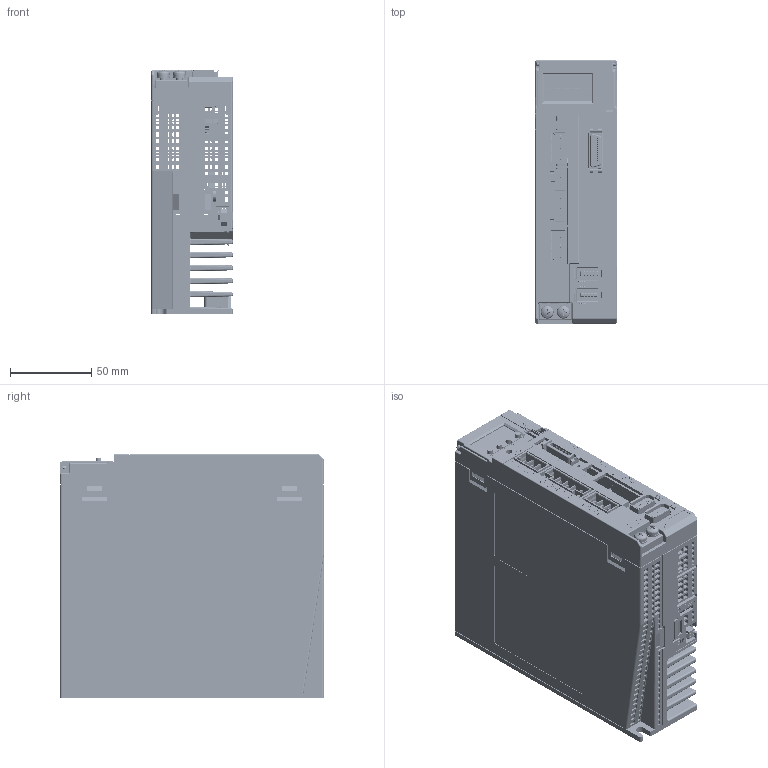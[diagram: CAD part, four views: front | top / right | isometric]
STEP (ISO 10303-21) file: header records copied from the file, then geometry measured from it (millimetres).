
FILE_DESCRIPTION((''),'2;1');
FILE_NAME('C:\Documents and Settings\11254\桌面\SDP給客戶\SDP-A.stp','2016-10-22T11:30:24',('11254'),(''),'Autodesk Inventor 2008','Autodesk Inventor 2008','');
FILE_SCHEMA(('AUTOMOTIVE_DESIGN { 1 0 10303 214 1 1 1 1 }'));
Length unit declared in the file: millimetre
Products named in the file (2): SDP-A; 零件2_1
Assembly tree (1 placements, depth 2):
  SDP-A
    零件2_1
Bounding box: 50 x 162.01 x 150.3 mm (x, y, z)
Volume: 325344.8 mm3; surface area: 301129.5 mm2
Topology: 1 solids, 1 shells, 10833 faces, 30793 edges, 20238 vertices
Faces by surface type: plane 8606, cylinder 1624, bspline 428, sphere 83, cone 49, torus 43
Full cylindrical faces by diameter (mm): 0.415 x5, 0.6 x4, 0.738 x1, 0.8 x54, 0.822 x1, 0.85 x20, 1 x4, 1.5 x30, 1.97 x6, 2 x2, 2.2 x2, 2.7 x2, 2.8 x2, 3 x20, 3.4 x4, 3.5 x7, 3.621 x2, 4 x14, 4.3 x2, 4.33 x1, 5 x3, 5.5 x1, 7 x4, 8 x2, 8.3 x1
Entity records: 356033 total; most frequent: CARTESIAN_POINT 73218, ORIENTED_EDGE 60950, DIRECTION 54091, EDGE_CURVE 30475, VECTOR 25901, LINE 25901, VERTEX_POINT 20176, AXIS2_PLACEMENT_3D 14095
